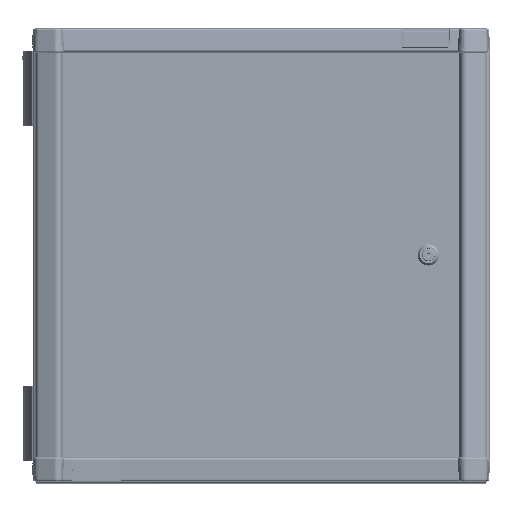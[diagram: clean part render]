
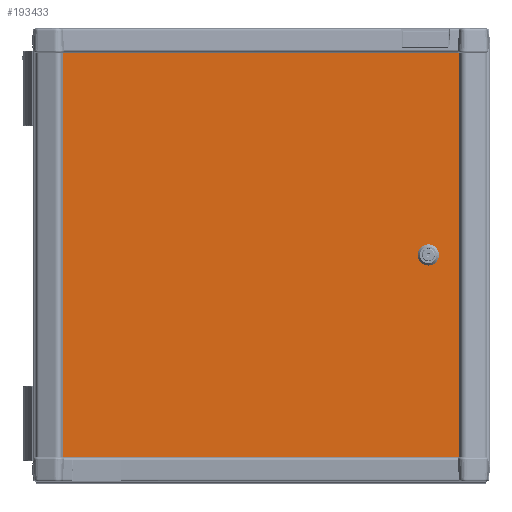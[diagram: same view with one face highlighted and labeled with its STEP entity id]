
A CAD part, top view. The second image highlights one B-rep face of the part: STEP entity #193433.
In plain terms, the highlighted planar face has unit normal (0, 0, 1).
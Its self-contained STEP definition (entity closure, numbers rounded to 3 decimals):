
#1262 = LINE ( 'NONE', #192441, #48779 ) ;
#3257 = CARTESIAN_POINT ( 'NONE',  ( -286.588, -295.059, 0. ) ) ;
#13162 = CARTESIAN_POINT ( 'NONE',  ( 210.611, 0., 0. ) ) ;
#17380 = EDGE_CURVE ( 'NONE', #65071, #79819, #148823, .T. ) ;
#21715 = CARTESIAN_POINT ( 'NONE',  ( 286.588, 295.059, 0. ) ) ;
#23710 = PLANE ( 'NONE',  #46676 ) ;
#28472 = VERTEX_POINT ( 'NONE', #114486 ) ;
#32665 = EDGE_CURVE ( 'NONE', #120534, #217196, #1262, .T. ) ;
#39550 = CARTESIAN_POINT ( 'NONE',  ( 221.723, 0., 0. ) ) ;
#44679 = EDGE_LOOP ( 'NONE', ( #255745, #236288, #183581, #185785 ) ) ;
#46676 = AXIS2_PLACEMENT_3D ( 'NONE', #3257, #183376, #155885 ) ;
#48779 = VECTOR ( 'NONE', #152673, 1000. ) ;
#57001 = CARTESIAN_POINT ( 'NONE',  ( 286.588, -295.059, 0. ) ) ;
#57963 = LINE ( 'NONE', #21715, #260825 ) ;
#59889 = DIRECTION ( 'NONE',  ( 1., 0., 0. ) ) ;
#65071 = VERTEX_POINT ( 'NONE', #101499 ) ;
#67198 = EDGE_LOOP ( 'NONE', ( #119728, #94231 ) ) ;
#68772 = DIRECTION ( 'NONE',  ( -1., 0., 0. ) ) ;
#68889 = AXIS2_PLACEMENT_3D ( 'NONE', #39550, #181313, #59889 ) ;
#79819 = VERTEX_POINT ( 'NONE', #214307 ) ;
#85408 = EDGE_CURVE ( 'NONE', #28472, #253895, #183592, .T. ) ;
#91249 = DIRECTION ( 'NONE',  ( 0., 0., 1. ) ) ;
#94231 = ORIENTED_EDGE ( 'NONE', *, *, #141837, .F. ) ;
#94860 = VECTOR ( 'NONE', #68772, 1000. ) ;
#101499 = CARTESIAN_POINT ( 'NONE',  ( 286.588, 295.059, 0. ) ) ;
#114486 = CARTESIAN_POINT ( 'NONE',  ( 232.836, 0., 0. ) ) ;
#119728 = ORIENTED_EDGE ( 'NONE', *, *, #85408, .F. ) ;
#120534 = VERTEX_POINT ( 'NONE', #127913 ) ;
#127913 = CARTESIAN_POINT ( 'NONE',  ( -286.588, -295.059, 0. ) ) ;
#141837 = EDGE_CURVE ( 'NONE', #253895, #28472, #209780, .T. ) ;
#142048 = DIRECTION ( 'NONE',  ( 0., -1., 0. ) ) ;
#143099 = DIRECTION ( 'NONE',  ( 0., 1., 0. ) ) ;
#148823 = LINE ( 'NONE', #190131, #94860 ) ;
#149321 = FACE_BOUND ( 'NONE', #67198, .T. ) ;
#152673 = DIRECTION ( 'NONE',  ( 1., 0., 0. ) ) ;
#155885 = DIRECTION ( 'NONE',  ( 1., 0., 0. ) ) ;
#181313 = DIRECTION ( 'NONE',  ( 0., 0., 1. ) ) ;
#183376 = DIRECTION ( 'NONE',  ( 0., 0., 1. ) ) ;
#183581 = ORIENTED_EDGE ( 'NONE', *, *, #192129, .T. ) ;
#183592 = CIRCLE ( 'NONE', #68889, 11.112 ) ;
#185785 = ORIENTED_EDGE ( 'NONE', *, *, #17380, .T. ) ;
#190131 = CARTESIAN_POINT ( 'NONE',  ( -286.588, 295.059, 0. ) ) ;
#192129 = EDGE_CURVE ( 'NONE', #217196, #65071, #57963, .T. ) ;
#192441 = CARTESIAN_POINT ( 'NONE',  ( -286.588, -295.059, 0. ) ) ;
#193433 = ADVANCED_FACE ( 'NONE', ( #149321, #250727 ), #23710, .T. ) ;
#201084 = AXIS2_PLACEMENT_3D ( 'NONE', #212660, #91249, #232985 ) ;
#203146 = CARTESIAN_POINT ( 'NONE',  ( -286.588, 295.059, 0. ) ) ;
#209780 = CIRCLE ( 'NONE', #201084, 11.112 ) ;
#212660 = CARTESIAN_POINT ( 'NONE',  ( 221.723, 0., 0. ) ) ;
#214307 = CARTESIAN_POINT ( 'NONE',  ( -286.588, 295.059, 0. ) ) ;
#217196 = VERTEX_POINT ( 'NONE', #57001 ) ;
#231292 = VECTOR ( 'NONE', #142048, 1000. ) ;
#232985 = DIRECTION ( 'NONE',  ( 1., 0., 0. ) ) ;
#236288 = ORIENTED_EDGE ( 'NONE', *, *, #32665, .T. ) ;
#244004 = LINE ( 'NONE', #203146, #231292 ) ;
#250727 = FACE_OUTER_BOUND ( 'NONE', #44679, .T. ) ;
#252137 = EDGE_CURVE ( 'NONE', #79819, #120534, #244004, .T. ) ;
#253895 = VERTEX_POINT ( 'NONE', #13162 ) ;
#255745 = ORIENTED_EDGE ( 'NONE', *, *, #252137, .T. ) ;
#260825 = VECTOR ( 'NONE', #143099, 1000. ) ;
